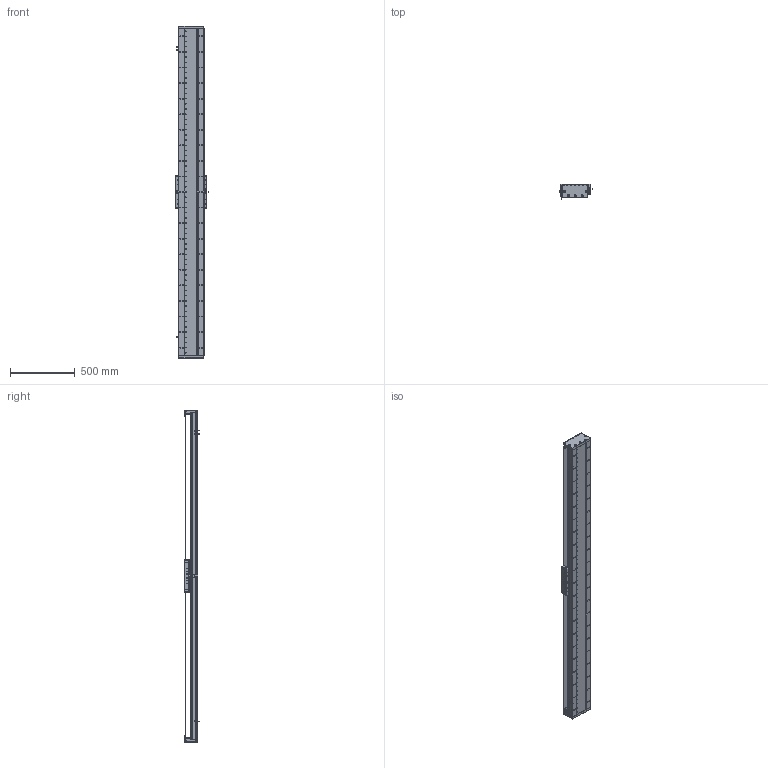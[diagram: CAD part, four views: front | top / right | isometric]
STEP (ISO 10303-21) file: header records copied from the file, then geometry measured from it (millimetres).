
FILE_DESCRIPTION (( 'STEP AP203' ), '1' );
FILE_NAME ('DA-C195-C3-T2220-C010-0.2 眻盄萇儂.STEP', '2025-08-15T01:33:43', ( '' ), ( '' ), 'SwSTEP 2.0', 'SolidWorks 2019', '' );
FILE_SCHEMA (( 'CONFIG_CONTROL_DESIGN' ));
Length unit declared in the file: millimetre
Products named in the file (15): DA95-HXJ-00 遣喳砎蝶; DA-C195-C3-T2220-C010-0.2 眻盄萇儂; DA165-GYP-00 光电感应片(默认); DA195詩湍郪璃; PM-T45ㄗ侂狟ㄘ; DA195詩湍裔啣; 葩璃 DA95-GT-T-00; DA195詩湍嶺輸; DA195詩湍菜輸; LMT黍杅芛; CU195-C3賑輸-俋楷; IU-CU195-L-00 菁釱(L2520); DA-C195-GD-DB-H-00 傷啣; IU-CU195-L 菁釱絳寢; MS200 棠掑喜S315-T240
Assembly tree (29 placements, depth 3):
  DA-C195-C3-T2220-C010-0.2 眻盄萇儂
    DA195詩湍郪璃
      DA195詩湍菜輸  x2
      DA195詩湍裔啣
      DA195詩湍嶺輸  x2
      DA95-HXJ-00 遣喳砎蝶  x8
      DA-C195-GD-DB-H-00 傷啣  x2
    IU-CU195-L 菁釱絳寢
      IU-CU195-L-00 菁釱(L2520)
      葩璃 DA95-GT-T-00  x4
    LMT黍杅芛
    MS200 棠掑喜S315-T240
    PM-T45ㄗ侂狟ㄘ  x3
    DA165-GYP-00 光电感应片(默认)
    CU195-C3賑輸-俋楷
Bounding box: 248 x 115.45 x 2560 mm (x, y, z)
Volume: 15129615.7 mm3; surface area: 4435481.6 mm2
Topology: 86 solids, 118 shells, 4294 faces, 12039 edges, 7585 vertices
Faces by surface type: cylinder 2330, plane 1362, cone 514, torus 52, sphere 36
Entity records: 137443 total; most frequent: CARTESIAN_POINT 36904, ORIENTED_EDGE 20994, DIRECTION 20262, EDGE_CURVE 10497, AXIS2_PLACEMENT_3D 7609, VERTEX_POINT 6787, VECTOR 5044, LINE 5044
